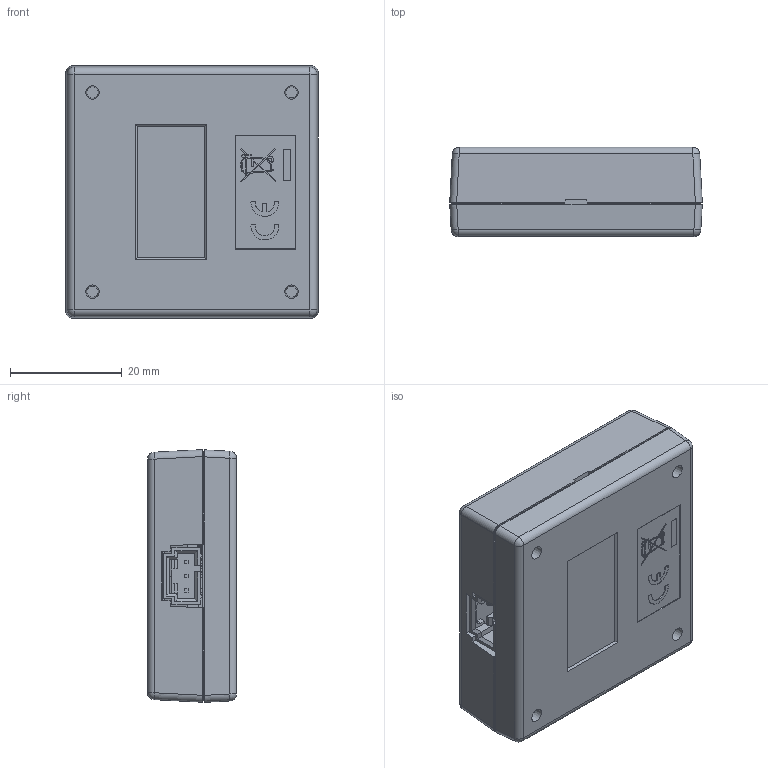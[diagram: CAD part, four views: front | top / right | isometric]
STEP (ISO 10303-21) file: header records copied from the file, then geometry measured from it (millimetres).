
FILE_DESCRIPTION(/* description */ ('Alibre Inc.'),/* implementation_level */ '2;1');
FILE_NAME(/* name */ 'export0',/* time_stamp */ '2018-07-12T09:51:21-06:00',/* author */ (''),/* organization */ (''),/* preprocessor_version */ 'ST-DEVELOPER v17',/* originating_system */ 'Alibre',/* authorisation */ '');
FILE_SCHEMA (('CONFIG_CONTROL_DESIGN'));
Length unit declared in the file: centimetre
Products named in the file (74): ID_1; ID_2; ID_3; ID_4; ID_5; ID_6; ID_7; ID_8; ID_9; ID_10; ID_11; ID_12; ID_13; ID_14; ID_15; ID_16; ID_17; ID_18; ID_19; ID_20; ID_21; ID_22; ID_23; ID_24; ID_25; ID_26; ID_27; ID_28; ID_29; ID_30; ID_31; ID_32; ID_33; ID_34; ID_35; ID_36; ID_37; ID_38; ID_39; ID_40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
Bounding box: 45.11 x 15.86 x 45.12 mm (x, y, z)
Volume: 13769.3 mm3; surface area: 19313.4 mm2
Topology: 82 solids, 82 shells, 1997 faces, 5124 edges, 3305 vertices
Faces by surface type: plane 1499, cylinder 399, revolution 32, bspline 31, cone 28, sphere 8
Full cylindrical faces by diameter (mm): 0.6 x5, 0.965 x3, 1.321 x8, 3.099 x4, 3.175 x4
Entity records: 46839 total; most frequent: CARTESIAN_POINT 9773, ORIENTED_EDGE 6190, DIRECTION 4970, EDGE_CURVE 3095, VECTOR 2340, LINE 2340, VERTEX_POINT 2031, AXIS2_PLACEMENT_3D 1705
